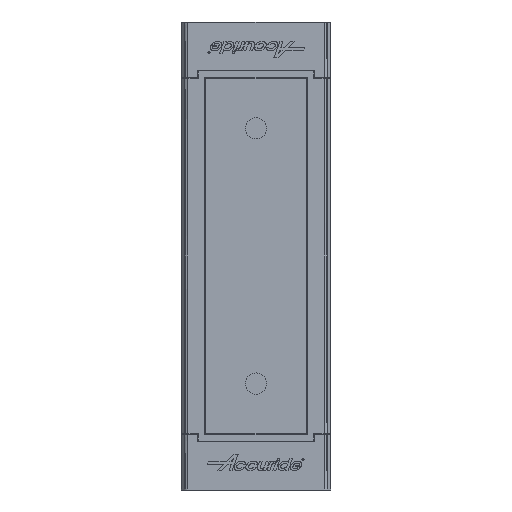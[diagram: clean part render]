
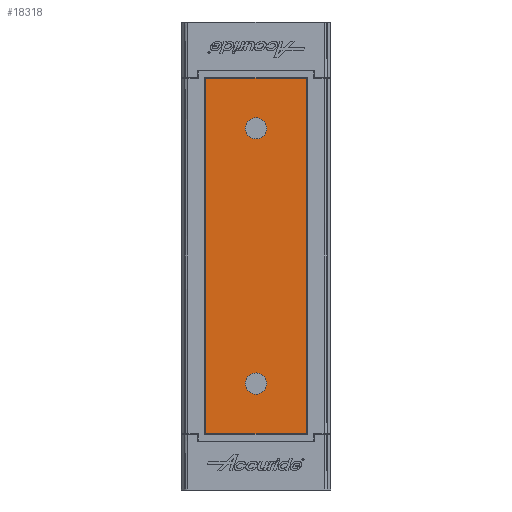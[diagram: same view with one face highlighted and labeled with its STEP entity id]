
A CAD part, front view. The second image highlights one B-rep face of the part: STEP entity #18318.
In plain terms, the highlighted planar face has unit normal (0, -1, 0).
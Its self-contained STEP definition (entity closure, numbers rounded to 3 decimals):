
#13764=CARTESIAN_POINT('',(2.5,-4.61,-30.0));
#13765=VERTEX_POINT('',#13764);
#13766=CARTESIAN_POINT('',(0.,-4.61,-30.0));
#13767=DIRECTION('',(0.,1.0,0.0));
#13768=DIRECTION('',(-1.0,0.,0.0));
#13769=AXIS2_PLACEMENT_3D('',#13766,#13767,#13768);
#13770=CIRCLE('',#13769,2.5);
#13771=EDGE_CURVE('',#13765,#13765,#13770,.T.);
#13801=CARTESIAN_POINT('',(2.5,-4.61,30.0));
#13802=VERTEX_POINT('',#13801);
#13803=CARTESIAN_POINT('',(0.,-4.61,30.0));
#13804=DIRECTION('',(0.,1.0,0.0));
#13805=DIRECTION('',(-1.0,0.,0.0));
#13806=AXIS2_PLACEMENT_3D('',#13803,#13804,#13805);
#13807=CIRCLE('',#13806,2.5);
#13808=EDGE_CURVE('',#13802,#13802,#13807,.T.);
#15679=CARTESIAN_POINT('',(-11.8,-4.61,-41.8));
#15680=VERTEX_POINT('',#15679);
#15687=CARTESIAN_POINT('',(-11.8,-4.61,41.8));
#15688=VERTEX_POINT('',#15687);
#15689=CARTESIAN_POINT('',(-11.8,-4.61,41.8));
#15690=DIRECTION('',(0.0,0.0,-1.0));
#15691=VECTOR('',#15690,83.6);
#15692=LINE('',#15689,#15691);
#15693=EDGE_CURVE('',#15688,#15680,#15692,.T.);
#15717=CARTESIAN_POINT('',(11.8,-4.61,-41.8));
#15718=VERTEX_POINT('',#15717);
#15725=CARTESIAN_POINT('',(-11.8,-4.61,-41.8));
#15726=DIRECTION('',(1.0,0.,0.0));
#15727=VECTOR('',#15726,23.6);
#15728=LINE('',#15725,#15727);
#15729=EDGE_CURVE('',#15680,#15718,#15728,.T.);
#15748=CARTESIAN_POINT('',(11.8,-4.61,41.8));
#15749=VERTEX_POINT('',#15748);
#15756=CARTESIAN_POINT('',(11.8,-4.61,-41.8));
#15757=DIRECTION('',(0.0,0.0,1.0));
#15758=VECTOR('',#15757,83.6);
#15759=LINE('',#15756,#15758);
#15760=EDGE_CURVE('',#15718,#15749,#15759,.T.);
#15778=CARTESIAN_POINT('',(11.8,-4.61,41.8));
#15779=DIRECTION('',(-1.0,0.,0.0));
#15780=VECTOR('',#15779,23.6);
#15781=LINE('',#15778,#15780);
#15782=EDGE_CURVE('',#15749,#15688,#15781,.T.);
#18301=CARTESIAN_POINT('',(16.003,-4.61,0.0));
#18302=DIRECTION('',(0.,-1.0,0.0));
#18303=DIRECTION('',(0.0,0.0,-1.0));
#18304=AXIS2_PLACEMENT_3D('',#18301,#18302,#18303);
#18305=PLANE('',#18304);
#18306=ORIENTED_EDGE('',*,*,#15693,.T.);
#18307=ORIENTED_EDGE('',*,*,#15729,.T.);
#18308=ORIENTED_EDGE('',*,*,#15760,.T.);
#18309=ORIENTED_EDGE('',*,*,#15782,.T.);
#18310=EDGE_LOOP('',(#18306,#18307,#18308,#18309));
#18311=FACE_OUTER_BOUND('',#18310,.T.);
#18312=ORIENTED_EDGE('',*,*,#13771,.T.);
#18313=EDGE_LOOP('',(#18312));
#18314=FACE_BOUND('',#18313,.T.);
#18315=ORIENTED_EDGE('',*,*,#13808,.T.);
#18316=EDGE_LOOP('',(#18315));
#18317=FACE_BOUND('',#18316,.T.);
#18318=ADVANCED_FACE('',(#18311,#18314,#18317),#18305,.T.);
